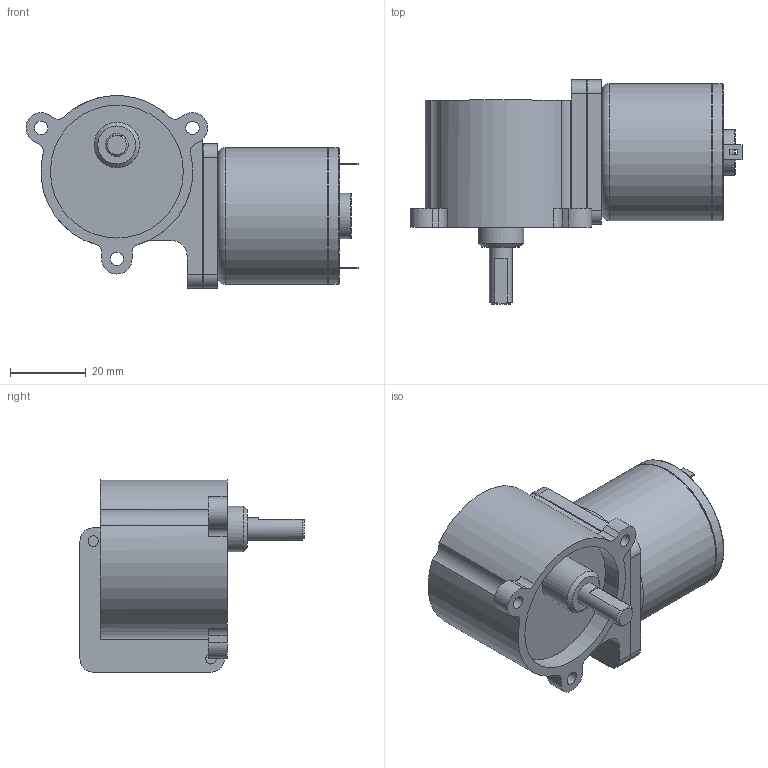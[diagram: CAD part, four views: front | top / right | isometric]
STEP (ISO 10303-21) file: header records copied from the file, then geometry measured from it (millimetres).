
FILE_DESCRIPTION((''),'2;1');
FILE_NAME('C:\Documents and Settings\SSEGAWA\デスクトップ\TP-3632A-KW.STP','2013-07-11T15:51:40',('SSEGAWA'),(''),'Autodesk Inventor 2010','Autodesk Inventor 2010','');
FILE_SCHEMA(('CONFIG_CONTROL_DESIGN'));
Length unit declared in the file: millimetre
Products named in the file (1): tp_3632ac_kw_Shrinkwrap_1
Bounding box: 87.42 x 59 x 50.63 mm (x, y, z)
Volume: 84245.4 mm3; surface area: 15739.8 mm2
Topology: 1 solids, 4 shells, 132 faces, 318 edges, 212 vertices
Faces by surface type: plane 68, cylinder 40, bspline 19, torus 3, cone 2
Full cylindrical faces by diameter (mm): 2.5 x1, 4 x1, 4.5 x1, 6 x1, 9.3 x1, 10 x1, 12 x2, 35 x1, 35.6 x1, 36 x2
Entity records: 3972 total; most frequent: CARTESIAN_POINT 831, DIRECTION 618, ORIENTED_EDGE 562, EDGE_CURVE 281, AXIS2_PLACEMENT_3D 225, VERTEX_POINT 202, EDGE_LOOP 189, VECTOR 168
